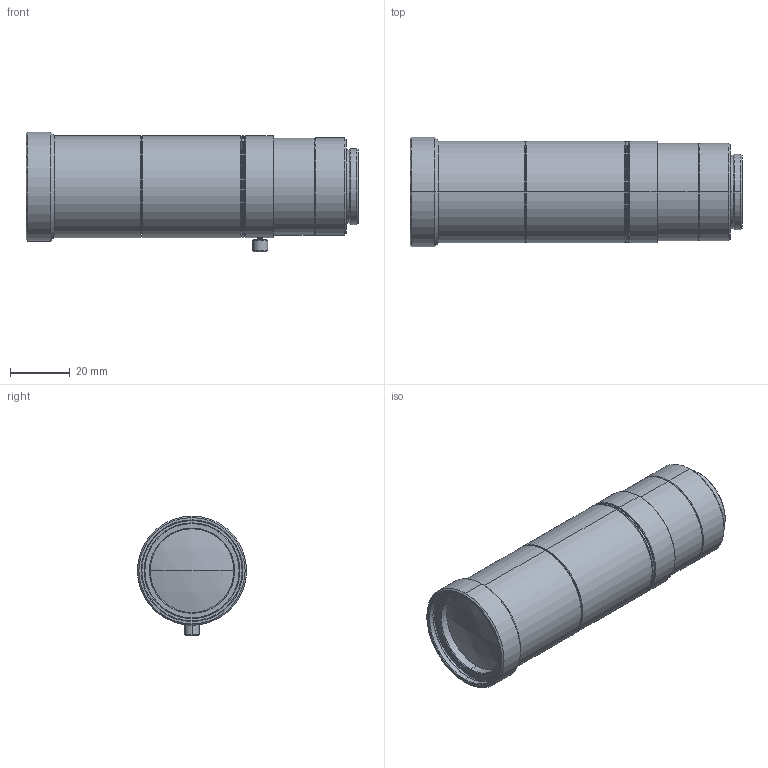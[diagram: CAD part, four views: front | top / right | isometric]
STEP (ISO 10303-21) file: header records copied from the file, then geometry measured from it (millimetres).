
FILE_DESCRIPTION (( 'STEP AP203' ), '1' );
FILE_NAME ('VS-TCT1-65_S.STEP', '2016-08-30T07:13:49', ( '' ), ( '' ), 'SwSTEP 2.0', 'SolidWorks 2016', '' );
FILE_SCHEMA (( 'CONFIG_CONTROL_DESIGN' ));
Length unit declared in the file: millimetre
Products named in the file (1): VS-TCT1-65_S
Bounding box: 110.97 x 36.5 x 40.05 mm (x, y, z)
Volume: 91953.9 mm3; surface area: 16150.3 mm2
Topology: 1 solids, 1 shells, 124 faces, 251 edges, 146 vertices
Faces by surface type: cone 60, cylinder 42, plane 18, sphere 4
Entity records: 3334 total; most frequent: DIRECTION 645, CARTESIAN_POINT 554, ORIENTED_EDGE 502, AXIS2_PLACEMENT_3D 271, EDGE_CURVE 251, VERTEX_POINT 146, CIRCLE 146, EDGE_LOOP 141
